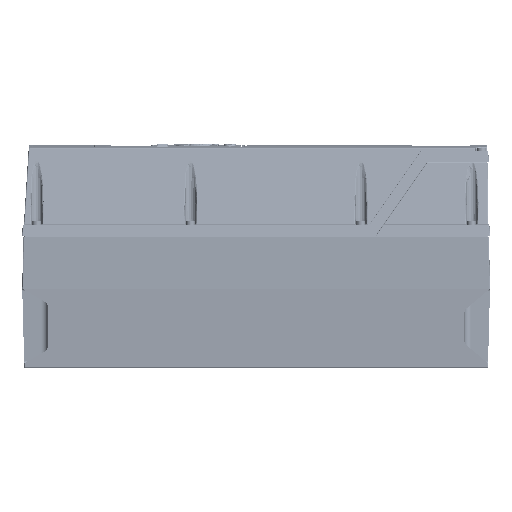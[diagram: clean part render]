
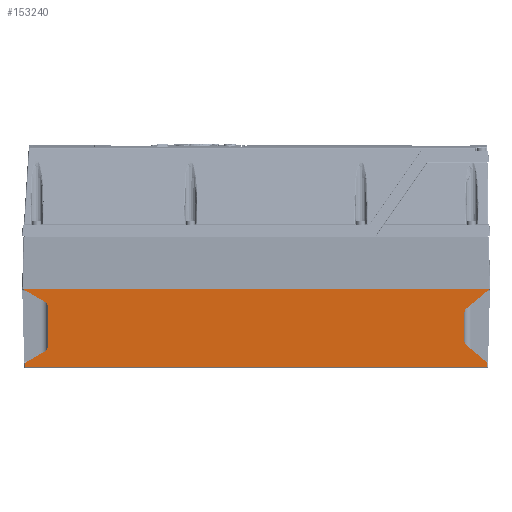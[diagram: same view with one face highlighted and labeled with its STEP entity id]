
A CAD part, left-side view. The second image highlights one B-rep face of the part: STEP entity #153240.
In plain terms, the highlighted planar face has unit normal (-1, 0, -0.026).
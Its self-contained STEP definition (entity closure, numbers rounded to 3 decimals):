
#8220=CARTESIAN_POINT('',(-120.983,-209.245,
10.616));
#8472=CARTESIAN_POINT('',(-119.673,-188.786,
-39.426));
#8473=CARTESIAN_POINT('',(-119.68,-188.488,
-39.176));
#8474=CARTESIAN_POINT('',(-119.694,-187.982,
-38.635));
#8475=CARTESIAN_POINT('',(-119.718,-187.435,
-37.724));
#8476=CARTESIAN_POINT('',(-119.744,-187.089,
-36.72));
#8477=CARTESIAN_POINT('',(-119.763,-187.,-35.984));
#8478=CARTESIAN_POINT('',(-119.773,-187.,-35.595));
#8624=CARTESIAN_POINT('',(-119.267,-207.267,
-54.933));
#8831=CARTESIAN_POINT('',(-120.434,-187.,-10.381));
#8832=CARTESIAN_POINT('',(-120.444,-187.,-9.992));
#8833=CARTESIAN_POINT('',(-120.463,-187.089,
-9.257));
#8834=CARTESIAN_POINT('',(-120.489,-187.435,
-8.252));
#8835=CARTESIAN_POINT('',(-120.513,-187.982,
-7.341));
#8836=CARTESIAN_POINT('',(-120.527,-188.488,
-6.8));
#8837=CARTESIAN_POINT('',(-120.534,-188.786,
-6.551));
#8839=DIRECTION('',(-0.013,-0.866,0.5));
#8840=VECTOR('',#8839,20.51);
#8841=CARTESIAN_POINT('',(-119.26,207.261,
-55.185));
#8842=LINE('',#8841,#8840);
#8843=DIRECTION('',(-0.026,0.,1.));
#8844=VECTOR('',#8843,35.698);
#8845=CARTESIAN_POINT('',(-119.642,187.,-40.601));
#8846=LINE('',#8845,#8844);
#8847=DIRECTION('',(-0.013,0.866,0.5));
#8848=VECTOR('',#8847,22.758);
#8849=CARTESIAN_POINT('',(-120.69,189.5,-0.586));
#8850=LINE('',#8849,#8848);
#8851=CARTESIAN_POINT('',(-121.,209.,11.25));
#8852=CARTESIAN_POINT('',(-121.,209.012,11.25));
#8853=CARTESIAN_POINT('',(-121.,209.029,11.242));
#8854=CARTESIAN_POINT('',(-120.999,209.057,11.217));
#8855=CARTESIAN_POINT('',(-120.998,209.084,11.175));
#8856=CARTESIAN_POINT('',(-120.997,209.11,11.119));
#8857=CARTESIAN_POINT('',(-120.994,209.141,11.038));
#8858=CARTESIAN_POINT('',(-120.992,209.174,10.93));
#8859=CARTESIAN_POINT('',(-120.989,209.196,10.838));
#8860=CARTESIAN_POINT('',(-120.988,209.207,10.792));
#8862=CARTESIAN_POINT('',(-120.983,-209.245,
10.616));
#8863=CARTESIAN_POINT('',(-120.985,-209.232,
10.679));
#8864=CARTESIAN_POINT('',(-120.987,-209.213,
10.771));
#8865=CARTESIAN_POINT('',(-120.991,-209.183,
10.891));
#8866=CARTESIAN_POINT('',(-120.993,-209.159,
10.978));
#8867=CARTESIAN_POINT('',(-120.995,-209.132,
11.062));
#8868=CARTESIAN_POINT('',(-120.997,-209.107,
11.127));
#8869=CARTESIAN_POINT('',(-120.998,-209.083,
11.176));
#8870=CARTESIAN_POINT('',(-120.999,-209.062,
11.209));
#8871=CARTESIAN_POINT('',(-121.,-209.037,
11.237));
#8872=CARTESIAN_POINT('',(-121.,-209.016,11.25));
#8873=CARTESIAN_POINT('',(-121.,-209.,11.25));
#8875=DIRECTION('',(0.017,0.766,-0.643));
#8876=VECTOR('',#8875,26.711);
#8877=CARTESIAN_POINT('',(-120.983,-209.245,
10.616));
#8878=LINE('',#8877,#8876);
#8879=DIRECTION('',(0.026,0.,-1.));
#8880=VECTOR('',#8879,25.223);
#8881=CARTESIAN_POINT('',(-120.434,-187.,-10.381));
#8882=LINE('',#8881,#8880);
#8883=DIRECTION('',(0.017,-0.766,-0.643));
#8884=VECTOR('',#8883,24.129);
#8885=CARTESIAN_POINT('',(-119.673,-188.786,
-39.426));
#8886=LINE('',#8885,#8884);
#8887=DIRECTION('',(0.026,0.026,-0.999));
#8888=VECTOR('',#8887,4.096);
#8889=CARTESIAN_POINT('',(-119.267,-207.267,
-54.933));
#8890=LINE('',#8889,#8888);
#8891=DIRECTION('',(0.,-1.,0.));
#8892=VECTOR('',#8891,414.32);
#8893=CARTESIAN_POINT('',(-119.16,207.16,
-59.026));
#8894=LINE('',#8893,#8892);
#8895=DIRECTION('',(-0.026,0.026,0.999));
#8896=VECTOR('',#8895,3.843);
#8897=CARTESIAN_POINT('',(-119.16,207.16,
-59.026));
#8898=LINE('',#8897,#8896);
#8941=CARTESIAN_POINT('',(-119.26,207.261,
-55.185));
#12722=CARTESIAN_POINT('',(-119.642,187.,-40.601));
#12723=CARTESIAN_POINT('',(-119.63,187.,-41.082));
#12724=CARTESIAN_POINT('',(-119.606,187.134,
-41.967));
#12725=CARTESIAN_POINT('',(-119.576,187.625,
-43.127));
#12726=CARTESIAN_POINT('',(-119.55,188.384,
-44.132));
#12727=CARTESIAN_POINT('',(-119.535,189.083,
-44.691));
#12728=CARTESIAN_POINT('',(-119.529,189.5,-44.931));
#12810=CARTESIAN_POINT('',(-120.69,189.5,-0.586));
#12811=CARTESIAN_POINT('',(-120.684,189.083,
-0.826));
#12812=CARTESIAN_POINT('',(-120.669,188.384,
-1.385));
#12813=CARTESIAN_POINT('',(-120.643,187.625,
-2.39));
#12814=CARTESIAN_POINT('',(-120.612,187.134,
-3.55));
#12815=CARTESIAN_POINT('',(-120.589,187.,-4.435));
#12816=CARTESIAN_POINT('',(-120.577,187.,-4.916));
#13076=DIRECTION('',(0.,-1.,0.));
#13077=VECTOR('',#13076,418.);
#13078=CARTESIAN_POINT('',(-121.,209.,11.25));
#13079=LINE('',#13078,#13077);
#125364=CARTESIAN_POINT('',(-121.,209.,11.25));
#125365=VERTEX_POINT('',#125364);
#125366=VERTEX_POINT('',#8860);
#125377=VERTEX_POINT('',#8220);
#125378=VERTEX_POINT('',#8873);
#125417=VERTEX_POINT('',#8941);
#125418=VERTEX_POINT('',#8624);
#125487=CARTESIAN_POINT('',(-119.16,207.16,
-59.026));
#125488=VERTEX_POINT('',#125487);
#125491=CARTESIAN_POINT('',(-119.16,-207.16,
-59.026));
#125492=VERTEX_POINT('',#125491);
#127306=CARTESIAN_POINT('',(-119.642,187.,-40.601));
#127307=CARTESIAN_POINT('',(-120.577,187.,-4.916));
#127308=VERTEX_POINT('',#127306);
#127309=VERTEX_POINT('',#127307);
#127310=CARTESIAN_POINT('',(-120.434,-187.,-10.381));
#127311=CARTESIAN_POINT('',(-119.773,-187.,-35.595));
#127312=VERTEX_POINT('',#127310);
#127313=VERTEX_POINT('',#127311);
#127320=CARTESIAN_POINT('',(-120.69,189.5,-0.586));
#127321=VERTEX_POINT('',#127320);
#127322=CARTESIAN_POINT('',(-120.534,-188.786,
-6.551));
#127323=VERTEX_POINT('',#127322);
#127328=CARTESIAN_POINT('',(-119.529,189.5,-44.931));
#127329=VERTEX_POINT('',#127328);
#127330=CARTESIAN_POINT('',(-119.673,-188.786,
-39.426));
#127331=VERTEX_POINT('',#127330);
#153207=CARTESIAN_POINT('',(-121.,210.,11.25));
#153208=DIRECTION('',(-1.,0.,-0.026));
#153209=DIRECTION('',(0.,-1.,0.));
#153210=AXIS2_PLACEMENT_3D('',#153207,#153208,#153209);
#153211=PLANE('',#153210);
#153213=ORIENTED_EDGE('',*,*,#153212,.T.);
#153215=ORIENTED_EDGE('',*,*,#153214,.F.);
#153217=ORIENTED_EDGE('',*,*,#153216,.T.);
#153219=ORIENTED_EDGE('',*,*,#153218,.F.);
#153221=ORIENTED_EDGE('',*,*,#153220,.T.);
#153223=ORIENTED_EDGE('',*,*,#153222,.F.);
#153225=ORIENTED_EDGE('',*,*,#153224,.T.);
#153226=ORIENTED_EDGE('',*,*,#151962,.F.);
#153227=ORIENTED_EDGE('',*,*,#151984,.T.);
#153228=ORIENTED_EDGE('',*,*,#153201,.F.);
#153229=ORIENTED_EDGE('',*,*,#152409,.T.);
#153230=ORIENTED_EDGE('',*,*,#152434,.F.);
#153231=ORIENTED_EDGE('',*,*,#152746,.T.);
#153233=ORIENTED_EDGE('',*,*,#153232,.T.);
#153235=ORIENTED_EDGE('',*,*,#153234,.F.);
#153237=ORIENTED_EDGE('',*,*,#153236,.T.);
#153238=EDGE_LOOP('',(#153213,#153215,#153217,#153219,#153221,#153223,#153225,
#153226,#153227,#153228,#153229,#153230,#153231,#153233,#153235,#153237));
#153239=FACE_OUTER_BOUND('',#153238,.F.);
#8479=B_SPLINE_CURVE_WITH_KNOTS('',3,(#8472,#8473,#8474,#8475,#8476,#8477,
#8478),.UNSPECIFIED.,.F.,.F.,(4,1,1,1,4),(0.,0.25,0.5,0.75,1.),
.UNSPECIFIED.);
#8838=B_SPLINE_CURVE_WITH_KNOTS('',3,(#8831,#8832,#8833,#8834,#8835,#8836,
#8837),.UNSPECIFIED.,.F.,.F.,(4,1,1,1,4),(0.,0.25,0.5,0.75,1.),
.UNSPECIFIED.);
#8861=B_SPLINE_CURVE_WITH_KNOTS('',3,(#8851,#8852,#8853,#8854,#8855,#8856,#8857,
#8858,#8859,#8860),.UNSPECIFIED.,.F.,.F.,(4,1,1,1,1,1,1,4),(0.,0.063,
0.125,0.25,0.375,0.5,0.75,1.),.UNSPECIFIED.);
#8874=B_SPLINE_CURVE_WITH_KNOTS('',3,(#8862,#8863,#8864,#8865,#8866,#8867,#8868,
#8869,#8870,#8871,#8872,#8873),.UNSPECIFIED.,.F.,.F.,(4,1,1,1,1,1,1,1,1,4),
(0.,0.25,0.375,0.5,0.625,0.75,0.813,0.875,0.938,1.),
.UNSPECIFIED.);
#12729=B_SPLINE_CURVE_WITH_KNOTS('',3,(#12722,#12723,#12724,#12725,#12726,
#12727,#12728),.UNSPECIFIED.,.F.,.F.,(4,1,1,1,4),(0.,0.25,0.5,0.75,
1.),.UNSPECIFIED.);
#12817=B_SPLINE_CURVE_WITH_KNOTS('',3,(#12810,#12811,#12812,#12813,#12814,
#12815,#12816),.UNSPECIFIED.,.F.,.F.,(4,1,1,1,4),(0.,0.25,0.5,0.75,
1.),.UNSPECIFIED.);
#151962=EDGE_CURVE('',#125377,#125378,#8874,.T.);
#151984=EDGE_CURVE('',#125377,#127323,#8878,.T.);
#152409=EDGE_CURVE('',#127312,#127313,#8882,.T.);
#152434=EDGE_CURVE('',#127331,#127313,#8479,.T.);
#152746=EDGE_CURVE('',#127331,#125418,#8886,.T.);
#153201=EDGE_CURVE('',#127312,#127323,#8838,.T.);
#153212=EDGE_CURVE('',#125417,#127329,#8842,.T.);
#153214=EDGE_CURVE('',#127308,#127329,#12729,.T.);
#153216=EDGE_CURVE('',#127308,#127309,#8846,.T.);
#153218=EDGE_CURVE('',#127321,#127309,#12817,.T.);
#153220=EDGE_CURVE('',#127321,#125366,#8850,.T.);
#153222=EDGE_CURVE('',#125365,#125366,#8861,.T.);
#153224=EDGE_CURVE('',#125365,#125378,#13079,.T.);
#153232=EDGE_CURVE('',#125418,#125492,#8890,.T.);
#153234=EDGE_CURVE('',#125488,#125492,#8894,.T.);
#153236=EDGE_CURVE('',#125488,#125417,#8898,.T.);
#153240=ADVANCED_FACE('',(#153239),#153211,.T.);
